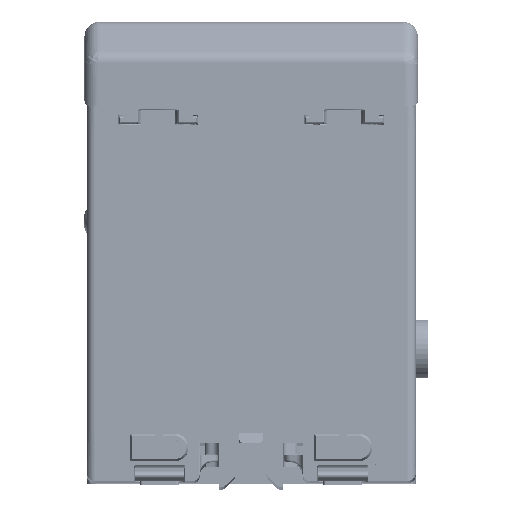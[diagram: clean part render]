
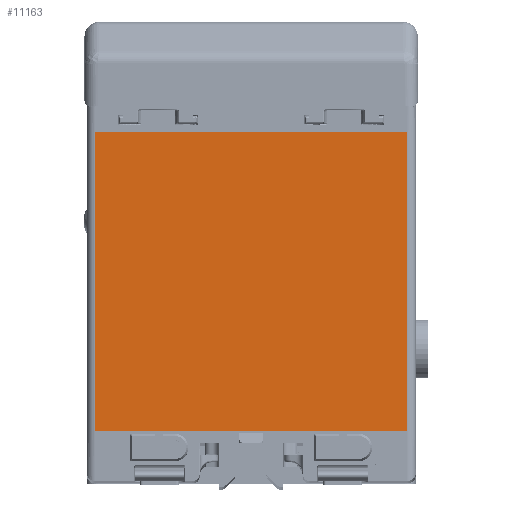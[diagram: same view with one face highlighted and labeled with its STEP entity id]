
A CAD part, top view. The second image highlights one B-rep face of the part: STEP entity #11163.
In plain terms, the highlighted planar face has unit normal (0, 0, 1) as drawn and (1, 0, 0) by its records, which use the part's own axes.
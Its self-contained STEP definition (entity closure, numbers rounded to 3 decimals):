
#5399 = VECTOR ( 'NONE', #158890, 1000. ) ;
#6306 = CARTESIAN_POINT ( 'NONE',  ( 27.371, 71., 37. ) ) ;
#7772 = CARTESIAN_POINT ( 'NONE',  ( 27.371, 71., -37. ) ) ;
#8451 = VECTOR ( 'NONE', #45097, 1000. ) ;
#9689 = VERTEX_POINT ( 'NONE', #116230 ) ;
#11163 = ADVANCED_FACE ( 'NONE', ( #26320 ), #54399, .F. ) ;
#13378 = VERTEX_POINT ( 'NONE', #53741 ) ;
#13867 = DIRECTION ( 'NONE',  ( -1., 0., 0. ) ) ;
#18787 = ORIENTED_EDGE ( 'NONE', *, *, #161375, .F. ) ;
#22043 = LINE ( 'NONE', #6306, #5399 ) ;
#26292 = EDGE_CURVE ( 'NONE', #38118, #9689, #82461, .T. ) ;
#26320 = FACE_OUTER_BOUND ( 'NONE', #118490, .T. ) ;
#26372 = DIRECTION ( 'NONE',  ( 0., 0., -1. ) ) ;
#35122 = ORIENTED_EDGE ( 'NONE', *, *, #133996, .T. ) ;
#36758 = AXIS2_PLACEMENT_3D ( 'NONE', #115021, #13867, #154779 ) ;
#38118 = VERTEX_POINT ( 'NONE', #58942 ) ;
#39119 = LINE ( 'NONE', #52380, #151692 ) ;
#45097 = DIRECTION ( 'NONE',  ( 0., 0., -1. ) ) ;
#52380 = CARTESIAN_POINT ( 'NONE',  ( 27.371, 71., -37. ) ) ;
#53741 = CARTESIAN_POINT ( 'NONE',  ( 27.371, 0., -37. ) ) ;
#54399 = PLANE ( 'NONE',  #36758 ) ;
#58942 = CARTESIAN_POINT ( 'NONE',  ( 27.371, 71., 37. ) ) ;
#64476 = LINE ( 'NONE', #91824, #88030 ) ;
#75581 = EDGE_CURVE ( 'NONE', #118820, #13378, #64476, .T. ) ;
#82461 = LINE ( 'NONE', #7772, #8451 ) ;
#88030 = VECTOR ( 'NONE', #26372, 1000. ) ;
#91824 = CARTESIAN_POINT ( 'NONE',  ( 27.371, 0., -37. ) ) ;
#99446 = ORIENTED_EDGE ( 'NONE', *, *, #75581, .T. ) ;
#115021 = CARTESIAN_POINT ( 'NONE',  ( 27.371, 71., -37. ) ) ;
#116230 = CARTESIAN_POINT ( 'NONE',  ( 27.371, 71., -37. ) ) ;
#118490 = EDGE_LOOP ( 'NONE', ( #99446, #18787, #148715, #35122 ) ) ;
#118820 = VERTEX_POINT ( 'NONE', #132630 ) ;
#132630 = CARTESIAN_POINT ( 'NONE',  ( 27.371, 0., 37. ) ) ;
#133996 = EDGE_CURVE ( 'NONE', #38118, #118820, #22043, .T. ) ;
#137778 = DIRECTION ( 'NONE',  ( 0., -1., 0. ) ) ;
#148715 = ORIENTED_EDGE ( 'NONE', *, *, #26292, .F. ) ;
#151692 = VECTOR ( 'NONE', #137778, 1000. ) ;
#154779 = DIRECTION ( 'NONE',  ( 0., 0., 1. ) ) ;
#158890 = DIRECTION ( 'NONE',  ( 0., -1., 0. ) ) ;
#161375 = EDGE_CURVE ( 'NONE', #9689, #13378, #39119, .T. ) ;
